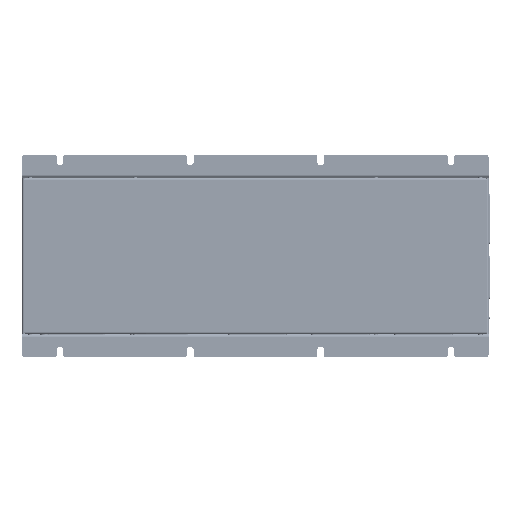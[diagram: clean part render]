
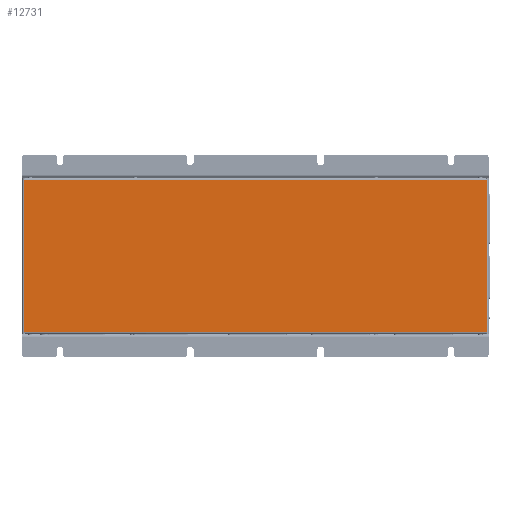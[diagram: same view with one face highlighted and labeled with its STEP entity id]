
A CAD part, front view. The second image highlights one B-rep face of the part: STEP entity #12731.
In plain terms, the highlighted planar face has unit normal (0, -1, 0) as drawn and (0, 1, 0) by its records, which use the part's own axes.
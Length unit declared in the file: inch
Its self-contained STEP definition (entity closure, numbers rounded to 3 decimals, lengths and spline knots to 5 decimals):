
#4045 = DIRECTION ( 'NONE',  ( -1., 0., 0. ) ) ;
#5028 = ORIENTED_EDGE ( 'NONE', *, *, #141278, .F. ) ;
#5598 = VECTOR ( 'NONE', #35693, 39.37008 ) ;
#7109 = LINE ( 'NONE', #71921, #123954 ) ;
#12731 = ADVANCED_FACE ( 'NONE', ( #47555 ), #68565, .T. ) ;
#13021 = ORIENTED_EDGE ( 'NONE', *, *, #21017, .T. ) ;
#15665 = EDGE_CURVE ( 'NONE', #69466, #62223, #7109, .T. ) ;
#21017 = EDGE_CURVE ( 'NONE', #107702, #69466, #60719, .T. ) ;
#25174 = VECTOR ( 'NONE', #94951, 39.37008 ) ;
#27197 = CARTESIAN_POINT ( 'NONE',  ( 7.68594, 0., -2.52594 ) ) ;
#35693 = DIRECTION ( 'NONE',  ( 0., 0., -1. ) ) ;
#47555 = FACE_OUTER_BOUND ( 'NONE', #121231, .T. ) ;
#49976 = CARTESIAN_POINT ( 'NONE',  ( -7.68595, 0., 2.6 ) ) ;
#51461 = CARTESIAN_POINT ( 'NONE',  ( -7.68594, 0., 2.52594 ) ) ;
#55328 = LINE ( 'NONE', #49976, #25174 ) ;
#57653 = DIRECTION ( 'NONE',  ( 0., 0., 1. ) ) ;
#59843 = CARTESIAN_POINT ( 'NONE',  ( -7.68594, 0., -2.52594 ) ) ;
#60719 = LINE ( 'NONE', #137667, #5598 ) ;
#62223 = VERTEX_POINT ( 'NONE', #59843 ) ;
#68565 = PLANE ( 'NONE',  #109233 ) ;
#69053 = CARTESIAN_POINT ( 'NONE',  ( -7.76, 0., 2.6 ) ) ;
#69466 = VERTEX_POINT ( 'NONE', #27197 ) ;
#71921 = CARTESIAN_POINT ( 'NONE',  ( 7.68594, 0., -2.52594 ) ) ;
#73651 = ORIENTED_EDGE ( 'NONE', *, *, #77493, .T. ) ;
#77493 = EDGE_CURVE ( 'NONE', #140722, #107702, #139187, .T. ) ;
#94517 = CARTESIAN_POINT ( 'NONE',  ( 7.68594, 0., 2.52594 ) ) ;
#94951 = DIRECTION ( 'NONE',  ( 0., 0., -1. ) ) ;
#107702 = VERTEX_POINT ( 'NONE', #94517 ) ;
#109019 = VECTOR ( 'NONE', #117723, 39.37008 ) ;
#109233 = AXIS2_PLACEMENT_3D ( 'NONE', #69053, #146204, #57653 ) ;
#117232 = CARTESIAN_POINT ( 'NONE',  ( -7.68594, 0., 2.52594 ) ) ;
#117723 = DIRECTION ( 'NONE',  ( 1., 0., 0. ) ) ;
#121231 = EDGE_LOOP ( 'NONE', ( #13021, #124791, #5028, #73651 ) ) ;
#123954 = VECTOR ( 'NONE', #4045, 39.37008 ) ;
#124791 = ORIENTED_EDGE ( 'NONE', *, *, #15665, .T. ) ;
#137667 = CARTESIAN_POINT ( 'NONE',  ( 7.68594, 0., 2.6 ) ) ;
#139187 = LINE ( 'NONE', #117232, #109019 ) ;
#140722 = VERTEX_POINT ( 'NONE', #51461 ) ;
#141278 = EDGE_CURVE ( 'NONE', #140722, #62223, #55328, .T. ) ;
#146204 = DIRECTION ( 'NONE',  ( 0., 1., 0. ) ) ;
